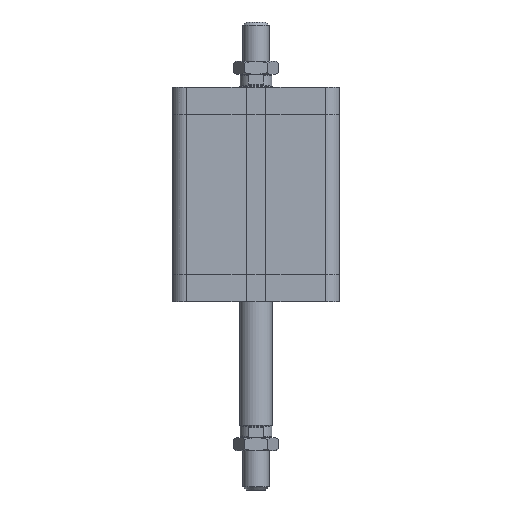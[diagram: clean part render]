
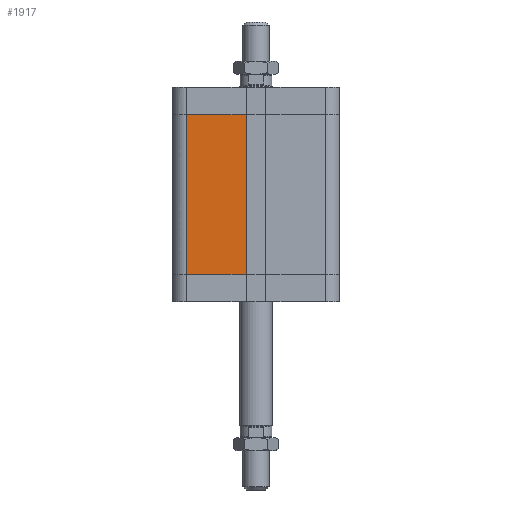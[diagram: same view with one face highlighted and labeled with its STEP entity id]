
A CAD part, front view. The second image highlights one B-rep face of the part: STEP entity #1917.
In plain terms, the highlighted planar face has unit normal (0, -1, 0).
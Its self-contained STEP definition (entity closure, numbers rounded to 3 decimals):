
#1828=CARTESIAN_POINT('',(-42.5,-51.,16.5));
#1829=VERTEX_POINT('',#1828);
#1837=CARTESIAN_POINT('',(-42.5,-51.,114.5));
#1838=VERTEX_POINT('',#1837);
#1839=CARTESIAN_POINT('',(-42.5,-51.,16.5));
#1840=DIRECTION('',(0.0,0.0,1.0));
#1841=VECTOR('',#1840,98.0);
#1842=LINE('',#1839,#1841);
#1843=EDGE_CURVE('',#1829,#1838,#1842,.T.);
#1887=CARTESIAN_POINT('',(-6.,-51.0,0.0));
#1888=DIRECTION('',(0.0,-1.0,0.0));
#1889=DIRECTION('',(0.0,0.0,-1.0));
#1890=AXIS2_PLACEMENT_3D('',#1887,#1888,#1889);
#1891=PLANE('',#1890);
#1892=CARTESIAN_POINT('',(-6.,-51.0,16.5));
#1893=VERTEX_POINT('',#1892);
#1894=CARTESIAN_POINT('',(-42.5,-51.,16.5));
#1895=DIRECTION('',(1.0,0.0,0.0));
#1896=VECTOR('',#1895,36.5);
#1897=LINE('',#1894,#1896);
#1898=EDGE_CURVE('',#1829,#1893,#1897,.T.);
#1899=ORIENTED_EDGE('',*,*,#1898,.T.);
#1900=CARTESIAN_POINT('',(-6.,-51.0,114.5));
#1901=VERTEX_POINT('',#1900);
#1902=CARTESIAN_POINT('',(-6.,-51.0,16.5));
#1903=DIRECTION('',(0.0,0.0,1.0));
#1904=VECTOR('',#1903,98.0);
#1905=LINE('',#1902,#1904);
#1906=EDGE_CURVE('',#1893,#1901,#1905,.T.);
#1907=ORIENTED_EDGE('',*,*,#1906,.T.);
#1908=CARTESIAN_POINT('',(-42.5,-51.,114.5));
#1909=DIRECTION('',(1.0,0.0,0.0));
#1910=VECTOR('',#1909,36.5);
#1911=LINE('',#1908,#1910);
#1912=EDGE_CURVE('',#1838,#1901,#1911,.T.);
#1913=ORIENTED_EDGE('',*,*,#1912,.F.);
#1914=ORIENTED_EDGE('',*,*,#1843,.F.);
#1915=EDGE_LOOP('',(#1899,#1907,#1913,#1914));
#1916=FACE_OUTER_BOUND('',#1915,.T.);
#1917=ADVANCED_FACE('',(#1916),#1891,.T.);
